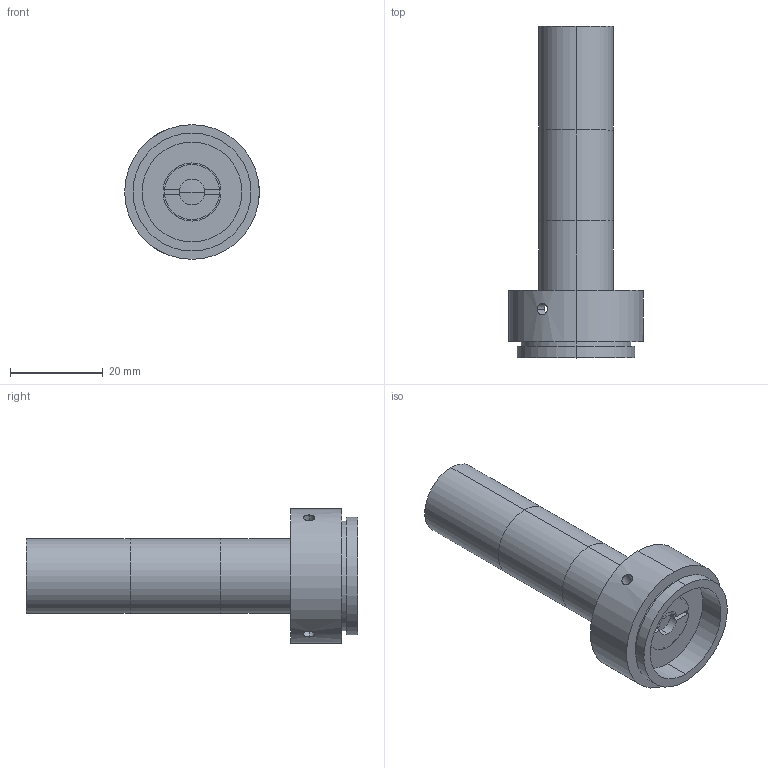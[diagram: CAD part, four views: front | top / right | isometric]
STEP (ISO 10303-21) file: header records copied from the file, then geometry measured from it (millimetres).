
FILE_DESCRIPTION (( 'STEP AP203' ), '1' );
FILE_NAME ('XF-T2X65.STEP', '2015-07-29T02:25:58', ( 'Lxtx999.CoM' ), ( 'Lxtx999.CoM' ), 'SwSTEP 2.0', 'SolidWorks 2014', '' );
FILE_SCHEMA (( 'CONFIG_CONTROL_DESIGN' ));
Length unit declared in the file: millimetre
Products named in the file (1): XF-T2X65
Bounding box: 29 x 71.43 x 29 mm (x, y, z)
Surface area: 6805.7 mm2 (no closed solid volume)
Topology: 0 solids, 11 shells, 62 faces, 164 edges, 114 vertices
Faces by surface type: cylinder 32, plane 26, sphere 4
Entity records: 2227 total; most frequent: CARTESIAN_POINT 569, DIRECTION 366, ORIENTED_EDGE 270, EDGE_CURVE 164, AXIS2_PLACEMENT_3D 151, VERTEX_POINT 114, CIRCLE 88, EDGE_LOOP 75
